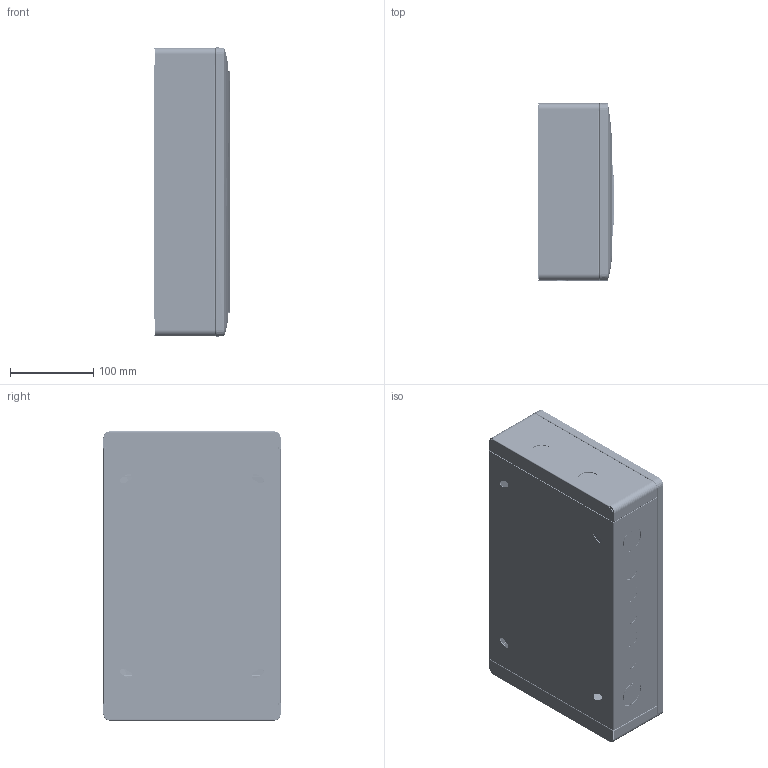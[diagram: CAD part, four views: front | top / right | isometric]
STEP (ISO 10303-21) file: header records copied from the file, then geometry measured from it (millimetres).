
FILE_DESCRIPTION (( 'STEP AP203' ), '1' );
FILE_NAME ('BEP-M114.STEP', '2024-05-15T08:13:16', ( '' ), ( '' ), 'SwSTEP 2.0', 'SolidWorks 2023', '' );
FILE_SCHEMA (( 'CONFIG_CONTROL_DESIGN' ));
Length unit declared in the file: millimetre
Products named in the file (27): T21N09; BEP-M 114DX(ZT); 铜条螺钉; M6接地螺钉套件; BEJL-L; H03-1L; BEP-M114; HG031-114; BEP-M 107~120DX(CB); 接地螺钉; G11-14; plain washers-n series-grade a gb_GB_FASTENER_WASHER_PWNA 6; T21P08; D02-09; BE焊箱支架-R; 端子固定螺钉; BEP-M 114DX; BE焊箱支架-L; hexagon nuts grade c gb_GB_FASTENER_NUT_SNC1 M6-S; BEJL-R; spring lock washers--normal type gb_GB_FASTENER_WASHER_SW 6; BENT2焊箱端子支架; BE(2016)-114HDM; H03-1R; BE(2016)-114MB; TD021-09; BE(2016)-114DZ
Assembly tree (44 placements, depth 4):
  BEP-M114
    BEP-M 114DX
      BEP-M 114DX(ZT)
      BEP-M 107~120DX(CB)  x2
      M6接地螺钉套件
        接地螺钉
        plain washers-n series-grade a gb_GB_FASTENER_WASHER_PWNA 6  x2
        spring lock washers--normal type gb_GB_FASTENER_WASHER_SW 6
        hexagon nuts grade c gb_GB_FASTENER_NUT_SNC1 M6-S
      BENT2焊箱端子支架
        BE焊箱支架-L
        BE焊箱支架-R
    TD021-09
      D02-09
      T21N09
      T21P08
      铜条螺钉  x17
      端子固定螺钉
    HG031-114
      H03-1L
      G11-14
      H03-1R
    BE(2016)-114MB
      BE(2016)-114DZ
      BE(2016)-114HDM
      BEJL-L
      BEJL-R
Bounding box: 92.42 x 213.85 x 347.95 mm (x, y, z)
Volume: 467927.5 mm3; surface area: 706538.9 mm2
Topology: 46 solids, 46 shells, 5292 faces, 14015 edges, 9025 vertices
Faces by surface type: plane 2233, cylinder 2004, bspline 593, torus 229, cone 208, sphere 25
Entity records: 182617 total; most frequent: CARTESIAN_POINT 80327, ORIENTED_EDGE 21792, DIRECTION 19320, EDGE_CURVE 10896, VERTEX_POINT 6996, AXIS2_PLACEMENT_3D 6744, LINE 5832, VECTOR 5832
